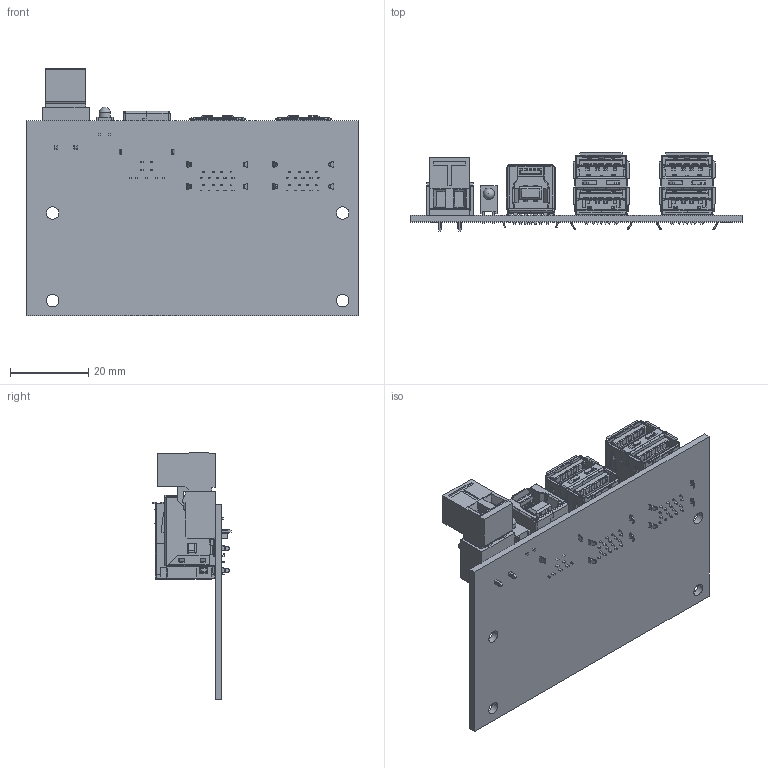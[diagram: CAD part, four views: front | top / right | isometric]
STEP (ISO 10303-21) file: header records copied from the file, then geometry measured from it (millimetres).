
FILE_DESCRIPTION(/* description */ (''),/* implementation_level */ '2;1');
FILE_NAME(/* name */ 'C:/Users/Leo Pinto/Documents/Fusion 360/AA PCBAs/USBG-4U3MLR2-PCBA/USBG-4U3MLR2 Model3d LPv1.step',/* time_stamp */ '2022-07-08T07:50:38-04:00',/* author */ (''),/* organization */ (''),/* preprocessor_version */ 'ST-DEVELOPER v19',/* originating_system */ 'Autodesk Translation Framework v11.7.0.108',/* authorisation */ '');
FILE_SCHEMA (('AUTOMOTIVE_DESIGN { 1 0 10303 214 3 1 1 }'));
Products named in the file (33): USBG-4U3MLR2; D1CG-43AB1 1LeD v2; User_Library-Led_3mm_Dialight_mod__551-1107F; PCB; USB Type B doble PCB Blue.0 v4; USB Type B doble PCB Blue.0 v4_1; pin1; pin4; pin3; pin2; pin5; pin6; Housing1; Housing; Housing2; Housing4; Shielding2; Shielding; USB type A 2 Gen Blue.2Gen1 v2; Housing1 (1); Housing2 (1); pin1 (1); shielding_1; pin2 (1); shielding_2; Housing3; pin3 (1); pin4 (1); pin5 (1); pin3_mir2; pin4_mir2; Connector green Phoenix 2 holes female 5.08 v2; Connector green phoenix 2pines male 5.08 v6
Assembly tree (70 placements, depth 3):
  USBG-4U3MLR2
    D1CG-43AB1 1LeD v2
      User_Library-Led_3mm_Dialight_mod__551-1107F
    PCB
    USB Type B doble PCB Blue.0 v4
      pin1  x5
      pin4  x5
      pin3  x2
      pin2  x2
      pin5  x2
      pin6  x2
      Housing1
      Housing
      Housing2
      Housing4
      Shielding2
      Shielding
    USB Type B doble PCB Blue.0 v4_1
      pin1  x5
      pin4  x5
      pin3  x2
      pin2  x2
      pin5  x2
      pin6  x2
      Housing1
      Housing
      Housing2
      Housing4
      Shielding2
      Shielding
    USB type A 2 Gen Blue.2Gen1 v2
      Housing1 (1)
      Housing2 (1)
      pin1 (1)  x2
      shielding_1
      pin2 (1)  x2
      shielding_2
      Housing3
      pin3 (1)
      pin4 (1)
      pin5 (1)
      pin3_mir2
      pin4_mir2
    Connector green Phoenix 2 holes female 5.08 v2
    Connector green phoenix 2pines male 5.08 v6
Bounding box: 85.09 x 20.1 x 63.54 mm (x, y, z)
Volume: 15750.4 mm3; surface area: 33025.5 mm2
Topology: 66 solids, 66 shells, 5180 faces, 14678 edges, 9617 vertices
Faces by surface type: plane 3827, cylinder 1302, bspline 36, cone 12, sphere 3
Full cylindrical faces by diameter (mm): 1 x4, 1.6 x2, 2.89 x1, 3.2 x4, 3.86 x2, 5.2 x4
Entity records: 91740 total; most frequent: CARTESIAN_POINT 16532, ORIENTED_EDGE 15616, DIRECTION 14767, EDGE_CURVE 7808, LINE 6407, VECTOR 6407, VERTEX_POINT 5115, AXIS2_PLACEMENT_3D 4180
